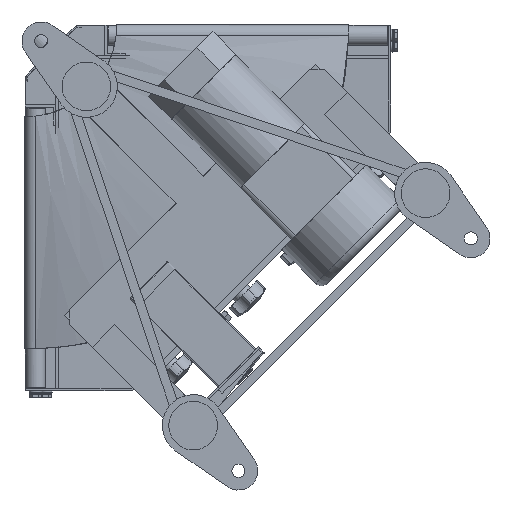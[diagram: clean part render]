
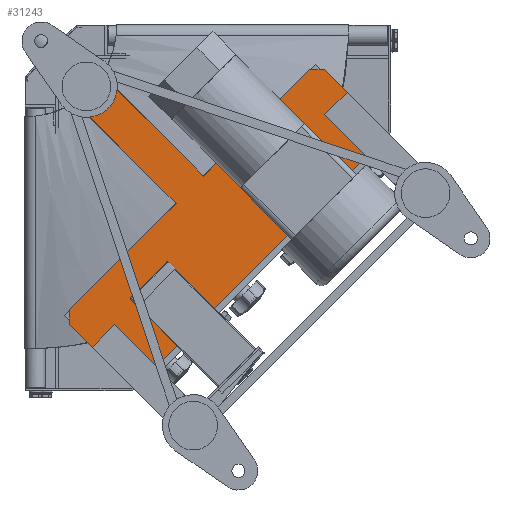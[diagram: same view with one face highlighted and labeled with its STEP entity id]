
A CAD part, front view. The second image highlights one B-rep face of the part: STEP entity #31243.
In plain terms, the highlighted planar face has unit normal (0, -1, 0).
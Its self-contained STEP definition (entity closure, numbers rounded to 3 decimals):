
#89 = CARTESIAN_POINT ( 'NONE',  ( 294.51, -167.5, -43.487 ) ) ;
#540 = LINE ( 'NONE', #7231, #27588 ) ;
#835 = CARTESIAN_POINT ( 'NONE',  ( 280.368, -167.5, -43.487 ) ) ;
#1523 = CARTESIAN_POINT ( 'NONE',  ( 39.598, -167.5, -12.728 ) ) ;
#2025 = DIRECTION ( 'NONE',  ( 0.707, 0., 0.707 ) ) ;
#2341 = DIRECTION ( 'NONE',  ( 0., 0., -1. ) ) ;
#3157 = FACE_OUTER_BOUND ( 'NONE', #25569, .T. ) ;
#3638 = DIRECTION ( 'NONE',  ( -0.707, 0., -0.707 ) ) ;
#3750 = CARTESIAN_POINT ( 'NONE',  ( 43.487, -167.5, -280.368 ) ) ;
#5608 = CARTESIAN_POINT ( 'NONE',  ( 43.487, -167.5, -294.51 ) ) ;
#5618 = LINE ( 'NONE', #17710, #14275 ) ;
#6101 = CARTESIAN_POINT ( 'NONE',  ( 43.487, -167.5, -294.51 ) ) ;
#6203 = LINE ( 'NONE', #1523, #9874 ) ;
#6296 = VERTEX_POINT ( 'NONE', #5608 ) ;
#7231 = CARTESIAN_POINT ( 'NONE',  ( 280.368, -167.5, -43.487 ) ) ;
#7371 = PLANE ( 'NONE',  #8259 ) ;
#7519 = VECTOR ( 'NONE', #3638, 1000. ) ;
#7567 = ORIENTED_EDGE ( 'NONE', *, *, #17460, .F. ) ;
#7725 = VECTOR ( 'NONE', #23654, 1000. ) ;
#8259 = AXIS2_PLACEMENT_3D ( 'NONE', #27998, #9892, #2341 ) ;
#8321 = LINE ( 'NONE', #6101, #27171 ) ;
#8985 = EDGE_CURVE ( 'NONE', #25971, #11356, #28642, .T. ) ;
#9611 = ORIENTED_EDGE ( 'NONE', *, *, #15694, .T. ) ;
#9647 = LINE ( 'NONE', #22366, #15776 ) ;
#9710 = LINE ( 'NONE', #14144, #24845 ) ;
#9874 = VECTOR ( 'NONE', #27398, 1000. ) ;
#9892 = DIRECTION ( 'NONE',  ( 0., -1., 0. ) ) ;
#10925 = VECTOR ( 'NONE', #28599, 1000. ) ;
#10968 = VERTEX_POINT ( 'NONE', #11326 ) ;
#11326 = CARTESIAN_POINT ( 'NONE',  ( 43.487, -167.5, -280.368 ) ) ;
#11356 = VERTEX_POINT ( 'NONE', #29041 ) ;
#11652 = VERTEX_POINT ( 'NONE', #17534 ) ;
#11696 = ORIENTED_EDGE ( 'NONE', *, *, #29580, .T. ) ;
#12254 = ORIENTED_EDGE ( 'NONE', *, *, #31675, .F. ) ;
#12969 = CARTESIAN_POINT ( 'NONE',  ( 39.598, -167.5, -12.728 ) ) ;
#12975 = CARTESIAN_POINT ( 'NONE',  ( 148.492, -167.5, -175.362 ) ) ;
#14144 = CARTESIAN_POINT ( 'NONE',  ( 43.487, -167.5, -280.368 ) ) ;
#14275 = VECTOR ( 'NONE', #2025, 1000. ) ;
#15165 = ORIENTED_EDGE ( 'NONE', *, *, #23496, .T. ) ;
#15694 = EDGE_CURVE ( 'NONE', #6296, #30959, #8321, .T. ) ;
#15776 = VECTOR ( 'NONE', #16784, 1000. ) ;
#15795 = EDGE_CURVE ( 'NONE', #25081, #10968, #18989, .T. ) ;
#16274 = ORIENTED_EDGE ( 'NONE', *, *, #33577, .T. ) ;
#16533 = DIRECTION ( 'NONE',  ( -0.707, 0., -0.707 ) ) ;
#16784 = DIRECTION ( 'NONE',  ( 0.707, 0., 0.707 ) ) ;
#17460 = EDGE_CURVE ( 'NONE', #29472, #17618, #6203, .T. ) ;
#17534 = CARTESIAN_POINT ( 'NONE',  ( 12.728, -167.5, -39.598 ) ) ;
#17618 = VERTEX_POINT ( 'NONE', #22678 ) ;
#17710 = CARTESIAN_POINT ( 'NONE',  ( 107.127, -167.5, -358.15 ) ) ;
#17898 = CARTESIAN_POINT ( 'NONE',  ( 358.15, -167.5, -107.127 ) ) ;
#18043 = CARTESIAN_POINT ( 'NONE',  ( 107.127, -167.5, -358.15 ) ) ;
#18989 = LINE ( 'NONE', #3750, #7519 ) ;
#19254 = VECTOR ( 'NONE', #29077, 1000. ) ;
#21009 = ORIENTED_EDGE ( 'NONE', *, *, #30831, .T. ) ;
#21775 = ORIENTED_EDGE ( 'NONE', *, *, #24356, .F. ) ;
#22366 = CARTESIAN_POINT ( 'NONE',  ( 12.728, -167.5, -39.598 ) ) ;
#22678 = CARTESIAN_POINT ( 'NONE',  ( 175.362, -167.5, -148.492 ) ) ;
#23496 = EDGE_CURVE ( 'NONE', #24908, #17618, #9710, .T. ) ;
#23654 = DIRECTION ( 'NONE',  ( -0.707, 0., 0.707 ) ) ;
#23780 = CARTESIAN_POINT ( 'NONE',  ( 43.487, -167.5, -294.51 ) ) ;
#23929 = DIRECTION ( 'NONE',  ( 0.707, 0., -0.707 ) ) ;
#24160 = LINE ( 'NONE', #23780, #19254 ) ;
#24356 = EDGE_CURVE ( 'NONE', #11652, #29472, #9647, .T. ) ;
#24845 = VECTOR ( 'NONE', #16533, 1000. ) ;
#24908 = VERTEX_POINT ( 'NONE', #835 ) ;
#25081 = VERTEX_POINT ( 'NONE', #12975 ) ;
#25569 = EDGE_LOOP ( 'NONE', ( #12254, #31409, #11696, #9611, #21009, #31459, #16274, #15165, #7567, #21775 ) ) ;
#25971 = VERTEX_POINT ( 'NONE', #17898 ) ;
#27171 = VECTOR ( 'NONE', #23929, 1000. ) ;
#27398 = DIRECTION ( 'NONE',  ( 0.707, 0., -0.707 ) ) ;
#27588 = VECTOR ( 'NONE', #30828, 1000. ) ;
#27998 = CARTESIAN_POINT ( 'NONE',  ( 0., -167.5, 0. ) ) ;
#28599 = DIRECTION ( 'NONE',  ( -0.707, 0., 0.707 ) ) ;
#28642 = LINE ( 'NONE', #89, #7725 ) ;
#28827 = CARTESIAN_POINT ( 'NONE',  ( 12.728, -167.5, -39.598 ) ) ;
#29041 = CARTESIAN_POINT ( 'NONE',  ( 294.51, -167.5, -43.487 ) ) ;
#29077 = DIRECTION ( 'NONE',  ( 0., 0., -1. ) ) ;
#29472 = VERTEX_POINT ( 'NONE', #12969 ) ;
#29580 = EDGE_CURVE ( 'NONE', #10968, #6296, #24160, .T. ) ;
#30828 = DIRECTION ( 'NONE',  ( -1., 0., 0. ) ) ;
#30831 = EDGE_CURVE ( 'NONE', #30959, #25971, #5618, .T. ) ;
#30959 = VERTEX_POINT ( 'NONE', #18043 ) ;
#31243 = ADVANCED_FACE ( 'NONE', ( #3157 ), #7371, .T. ) ;
#31409 = ORIENTED_EDGE ( 'NONE', *, *, #15795, .T. ) ;
#31459 = ORIENTED_EDGE ( 'NONE', *, *, #8985, .T. ) ;
#31675 = EDGE_CURVE ( 'NONE', #25081, #11652, #33469, .T. ) ;
#33469 = LINE ( 'NONE', #28827, #10925 ) ;
#33577 = EDGE_CURVE ( 'NONE', #11356, #24908, #540, .T. ) ;
